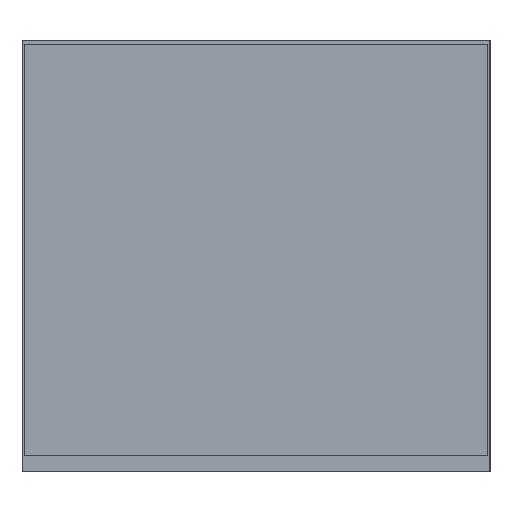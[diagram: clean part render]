
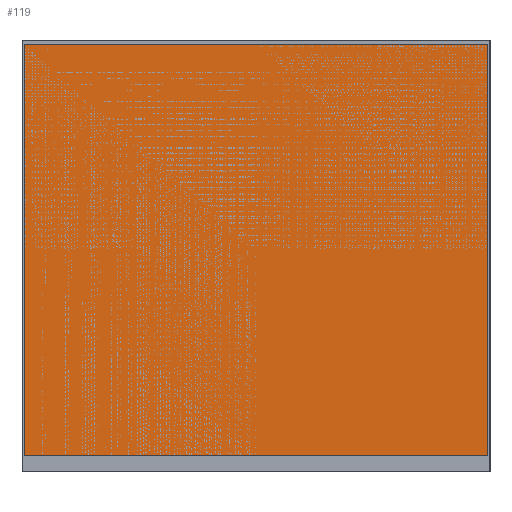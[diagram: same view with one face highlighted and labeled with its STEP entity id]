
A CAD part, left-side view. The second image highlights one B-rep face of the part: STEP entity #119.
In plain terms, the highlighted planar face has unit normal (-1, 0, 0).
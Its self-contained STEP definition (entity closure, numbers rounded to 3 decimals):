
#21 = EDGE_CURVE('',#22,#24,#26,.T.);
#22 = VERTEX_POINT('',#23);
#23 = CARTESIAN_POINT('',(-1.6,-0.8,0.08));
#24 = VERTEX_POINT('',#25);
#25 = CARTESIAN_POINT('',(-1.6,-0.8,1.5));
#26 = LINE('',#27,#28);
#27 = CARTESIAN_POINT('',(-1.6,-0.8,0.08));
#28 = VECTOR('',#29,1.);
#29 = DIRECTION('',(0.,0.,1.));
#94 = VERTEX_POINT('',#95);
#95 = CARTESIAN_POINT('',(-1.6,0.8,1.5));
#101 = EDGE_CURVE('',#102,#94,#104,.T.);
#102 = VERTEX_POINT('',#103);
#103 = CARTESIAN_POINT('',(-1.6,0.8,0.08));
#104 = LINE('',#105,#106);
#105 = CARTESIAN_POINT('',(-1.6,0.8,0.08));
#106 = VECTOR('',#107,1.);
#107 = DIRECTION('',(0.,0.,1.));
#119 = ADVANCED_FACE('',(#120),#136,.F.);
#120 = FACE_BOUND('',#121,.F.);
#121 = EDGE_LOOP('',(#122,#123,#129,#130));
#122 = ORIENTED_EDGE('',*,*,#101,.T.);
#123 = ORIENTED_EDGE('',*,*,#124,.T.);
#124 = EDGE_CURVE('',#94,#24,#125,.T.);
#125 = LINE('',#126,#127);
#126 = CARTESIAN_POINT('',(-1.6,0.8,1.5));
#127 = VECTOR('',#128,1.);
#128 = DIRECTION('',(0.,-1.,0.));
#129 = ORIENTED_EDGE('',*,*,#21,.F.);
#130 = ORIENTED_EDGE('',*,*,#131,.F.);
#131 = EDGE_CURVE('',#102,#22,#132,.T.);
#132 = LINE('',#133,#134);
#133 = CARTESIAN_POINT('',(-1.6,0.8,0.08));
#134 = VECTOR('',#135,1.);
#135 = DIRECTION('',(0.,-1.,0.));
#136 = PLANE('',#137);
#137 = AXIS2_PLACEMENT_3D('',#138,#139,#140);
#138 = CARTESIAN_POINT('',(-1.6,0.8,0.08));
#139 = DIRECTION('',(1.,0.,-0.));
#140 = DIRECTION('',(0.,-1.,0.));
